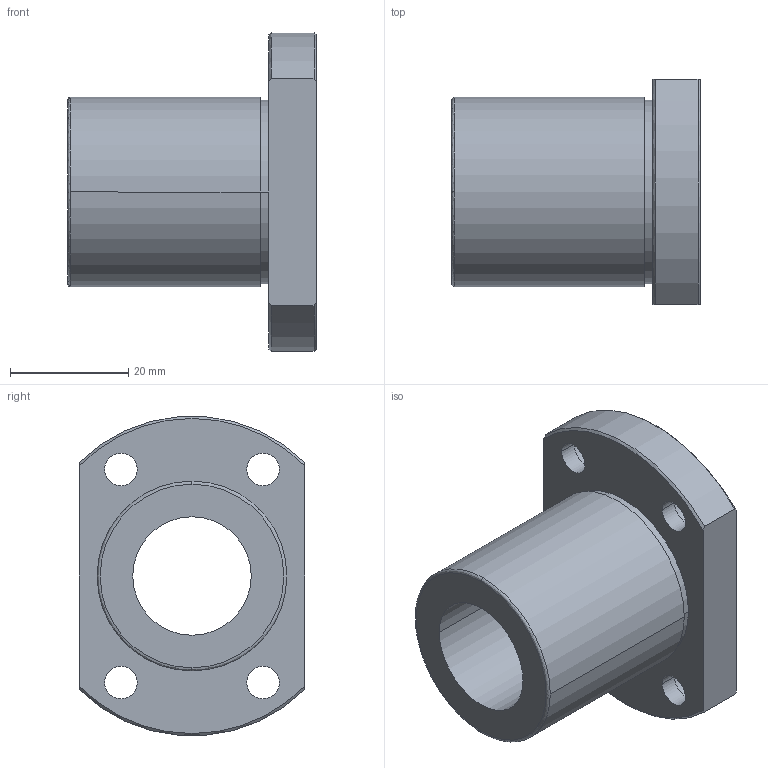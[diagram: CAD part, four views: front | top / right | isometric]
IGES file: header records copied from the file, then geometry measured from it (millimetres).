
Start section: 3D InterOp IGES (Version 21 0 1), Spatial Corp. Copyright (c) 1999-2007.
Global section: file name: NFEO-20VUU.igs; native system: Spatial Corp.; preprocessor: 3D InterOp GENERIC/IGES 3.0; author: Noname; organization: Noname; date: 20220308.102853; units: millimetre
Bounding box: 42 x 38 x 53.8 mm (x, y, z)
Surface area: 11070.5 mm2 (no closed solid volume)
Topology: 0 solids, 0 shells, 40 faces, 194 edges, 194 vertices
Faces by surface type: revolution 30, extrusion 10
